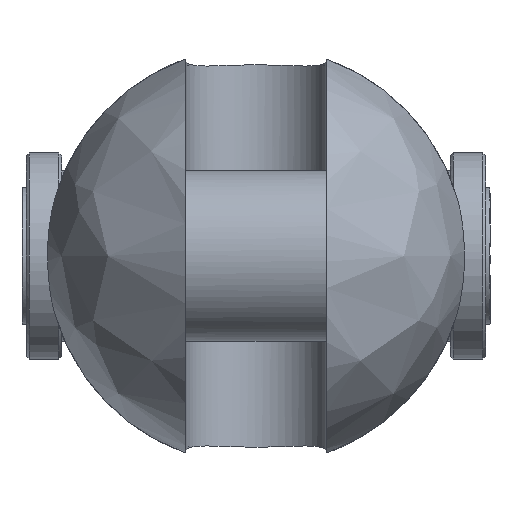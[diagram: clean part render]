
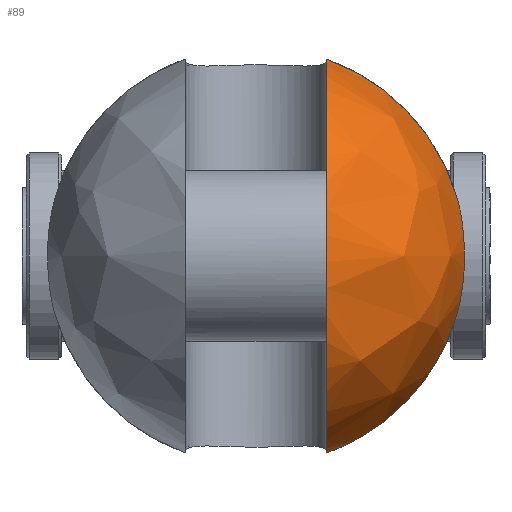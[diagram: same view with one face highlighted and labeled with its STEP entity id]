
A CAD part, left-side view. The second image highlights one B-rep face of the part: STEP entity #89.
In plain terms, the highlighted free-form (B-spline) face has degree [2, 2] with [9, 5] control points.
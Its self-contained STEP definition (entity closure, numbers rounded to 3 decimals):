
#89=ADVANCED_FACE('',(#164),#1306,.T.);
#164=FACE_OUTER_BOUND('',#249,.T.);
#249=EDGE_LOOP('',(#583,#584,#585,#586));
#583=ORIENTED_EDGE('',*,*,#807,.T.);
#584=ORIENTED_EDGE('',*,*,#835,.F.);
#585=ORIENTED_EDGE('',*,*,#847,.T.);
#586=ORIENTED_EDGE('',*,*,#827,.F.);
#807=EDGE_CURVE('',#1192,#1191,#1045,.T.);
#827=EDGE_CURVE('',#1192,#1204,#1055,.T.);
#835=EDGE_CURVE('',#1211,#1191,#1056,.T.);
#847=EDGE_CURVE('',#1211,#1204,#963,.T.);
#963=B_SPLINE_CURVE_WITH_KNOTS('',3,(#3120,#3121,#3122,#3123,#3124,#3125,
#3126,#3127,#3128,#3129,#3130,#3131,#3132,#3133),.UNSPECIFIED.,.F.,.F.,
(4,2,2,2,2,2,4),(0.,1.678,6.25,10.821,15.392,
19.964,21.642),.UNSPECIFIED.);
#1045=(
BOUNDED_CURVE()
B_SPLINE_CURVE(2,(#2896,#2897,#2898,#2899,#2900),.UNSPECIFIED.,.F.,.F.)
B_SPLINE_CURVE_WITH_KNOTS((3,2,3),(-104.962,-52.481,
0.),.UNSPECIFIED.)
CURVE()
GEOMETRIC_REPRESENTATION_ITEM()
RATIONAL_B_SPLINE_CURVE((1.,0.707,1.,0.707,1.))
REPRESENTATION_ITEM('')
);
#1055=(
BOUNDED_CURVE()
B_SPLINE_CURVE(2,(#2990,#2991,#2992),.UNSPECIFIED.,.F.,.F.)
B_SPLINE_CURVE_WITH_KNOTS((3,3),(0.,33.281),.UNSPECIFIED.)
CURVE()
GEOMETRIC_REPRESENTATION_ITEM()
RATIONAL_B_SPLINE_CURVE((1.,0.892,1.))
REPRESENTATION_ITEM('')
);
#1056=(
BOUNDED_CURVE()
B_SPLINE_CURVE(2,(#3047,#3048,#3049),.UNSPECIFIED.,.F.,.F.)
B_SPLINE_CURVE_WITH_KNOTS((3,3),(0.,33.281),.UNSPECIFIED.)
CURVE()
GEOMETRIC_REPRESENTATION_ITEM()
RATIONAL_B_SPLINE_CURVE((1.,0.892,1.))
REPRESENTATION_ITEM('')
);
#1191=VERTEX_POINT('',#2837);
#1192=VERTEX_POINT('',#2838);
#1204=VERTEX_POINT('',#2850);
#1211=VERTEX_POINT('',#2857);
#1306=(
BOUNDED_SURFACE()
B_SPLINE_SURFACE(2,2,((#2445,#2446,#2447,#2448,#2449),(#2450,#2451,#2452,
#2453,#2454),(#2455,#2456,#2457,#2458,#2459),(#2460,#2461,#2462,#2463,#2464),
(#2465,#2466,#2467,#2468,#2469),(#2470,#2471,#2472,#2473,#2474),(#2475,
#2476,#2477,#2478,#2479),(#2480,#2481,#2482,#2483,#2484),(#2485,#2486,#2487,
#2488,#2489)),.UNSPECIFIED.,.T.,.F.,.F.)
B_SPLINE_SURFACE_WITH_KNOTS((3,2,2,2,3),(3,2,3),(0.,55.763,111.527,
167.29,223.053),(0.,55.763,111.527),
 .UNSPECIFIED.)
GEOMETRIC_REPRESENTATION_ITEM()
RATIONAL_B_SPLINE_SURFACE(((1.,0.707,1.,0.707,1.),
(0.707,0.5,0.707,0.5,0.707),(1.,0.707,
1.,0.707,1.),(0.707,0.5,0.707,0.5,0.707),
(1.,0.707,1.,0.707,1.),(0.707,0.5,0.707,
0.5,0.707),(1.,0.707,1.,0.707,1.),(0.707,
0.5,0.707,0.5,0.707),(1.,0.707,1.,0.707,
1.)))
REPRESENTATION_ITEM('')
SURFACE()
);
#2445=CARTESIAN_POINT('',(-51.,0.,0.));
#2446=CARTESIAN_POINT('',(-51.,35.5,0.));
#2447=CARTESIAN_POINT('',(-15.5,35.5,0.));
#2448=CARTESIAN_POINT('',(20.,35.5,0.));
#2449=CARTESIAN_POINT('',(20.,0.,0.));
#2450=CARTESIAN_POINT('',(-51.,0.,0.));
#2451=CARTESIAN_POINT('',(-51.,35.5,35.5));
#2452=CARTESIAN_POINT('',(-15.5,35.5,35.5));
#2453=CARTESIAN_POINT('',(20.,35.5,35.5));
#2454=CARTESIAN_POINT('',(20.,0.,0.));
#2455=CARTESIAN_POINT('',(-51.,0.,0.));
#2456=CARTESIAN_POINT('',(-51.,0.,35.5));
#2457=CARTESIAN_POINT('',(-15.5,0.,35.5));
#2458=CARTESIAN_POINT('',(20.,0.,35.5));
#2459=CARTESIAN_POINT('',(20.,0.,0.));
#2460=CARTESIAN_POINT('',(-51.,0.,0.));
#2461=CARTESIAN_POINT('',(-51.,-35.5,35.5));
#2462=CARTESIAN_POINT('',(-15.5,-35.5,35.5));
#2463=CARTESIAN_POINT('',(20.,-35.5,35.5));
#2464=CARTESIAN_POINT('',(20.,0.,0.));
#2465=CARTESIAN_POINT('',(-51.,0.,0.));
#2466=CARTESIAN_POINT('',(-51.,-35.5,0.));
#2467=CARTESIAN_POINT('',(-15.5,-35.5,0.));
#2468=CARTESIAN_POINT('',(20.,-35.5,0.));
#2469=CARTESIAN_POINT('',(20.,0.,0.));
#2470=CARTESIAN_POINT('',(-51.,0.,0.));
#2471=CARTESIAN_POINT('',(-51.,-35.5,-35.5));
#2472=CARTESIAN_POINT('',(-15.5,-35.5,-35.5));
#2473=CARTESIAN_POINT('',(20.,-35.5,-35.5));
#2474=CARTESIAN_POINT('',(20.,0.,0.));
#2475=CARTESIAN_POINT('',(-51.,0.,0.));
#2476=CARTESIAN_POINT('',(-51.,0.,-35.5));
#2477=CARTESIAN_POINT('',(-15.5,0.,-35.5));
#2478=CARTESIAN_POINT('',(20.,0.,-35.5));
#2479=CARTESIAN_POINT('',(20.,0.,0.));
#2480=CARTESIAN_POINT('',(-51.,0.,0.));
#2481=CARTESIAN_POINT('',(-51.,35.5,-35.5));
#2482=CARTESIAN_POINT('',(-15.5,35.5,-35.5));
#2483=CARTESIAN_POINT('',(20.,35.5,-35.5));
#2484=CARTESIAN_POINT('',(20.,0.,0.));
#2485=CARTESIAN_POINT('',(-51.,0.,0.));
#2486=CARTESIAN_POINT('',(-51.,35.5,0.));
#2487=CARTESIAN_POINT('',(-15.5,35.5,0.));
#2488=CARTESIAN_POINT('',(20.,35.5,0.));
#2489=CARTESIAN_POINT('',(20.,0.,0.));
#2837=CARTESIAN_POINT('',(-15.5,-12.,-33.41));
#2838=CARTESIAN_POINT('',(-15.5,-12.,33.41));
#2850=CARTESIAN_POINT('',(-15.5,-34.033,10.1));
#2857=CARTESIAN_POINT('',(-15.5,-34.033,-10.1));
#2896=CARTESIAN_POINT('',(-15.5,-12.,33.41));
#2897=CARTESIAN_POINT('',(-48.91,-12.,33.41));
#2898=CARTESIAN_POINT('',(-48.91,-12.,0.));
#2899=CARTESIAN_POINT('',(-48.91,-12.,-33.41));
#2900=CARTESIAN_POINT('',(-15.5,-12.,-33.41));
#2990=CARTESIAN_POINT('',(-15.5,-12.,33.41));
#2991=CARTESIAN_POINT('',(-15.5,-28.919,27.334));
#2992=CARTESIAN_POINT('',(-15.5,-34.033,10.1));
#3047=CARTESIAN_POINT('',(-15.5,-34.033,-10.1));
#3048=CARTESIAN_POINT('',(-15.5,-28.919,-27.334));
#3049=CARTESIAN_POINT('',(-15.5,-12.,-33.41));
#3120=CARTESIAN_POINT('',(-15.5,-34.033,-10.1));
#3121=CARTESIAN_POINT('',(-15.799,-34.169,-9.64));
#3122=CARTESIAN_POINT('',(-16.079,-34.296,-9.166));
#3123=CARTESIAN_POINT('',(-17.043,-34.73,-7.351));
#3124=CARTESIAN_POINT('',(-17.591,-34.973,-5.924));
#3125=CARTESIAN_POINT('',(-18.319,-35.294,-2.989));
#3126=CARTESIAN_POINT('',(-18.5,-35.373,-1.481));
#3127=CARTESIAN_POINT('',(-18.5,-35.373,1.481));
#3128=CARTESIAN_POINT('',(-18.319,-35.294,2.989));
#3129=CARTESIAN_POINT('',(-17.591,-34.973,5.924));
#3130=CARTESIAN_POINT('',(-17.043,-34.73,7.351));
#3131=CARTESIAN_POINT('',(-16.079,-34.296,9.166));
#3132=CARTESIAN_POINT('',(-15.799,-34.169,9.64));
#3133=CARTESIAN_POINT('',(-15.5,-34.033,10.1));
